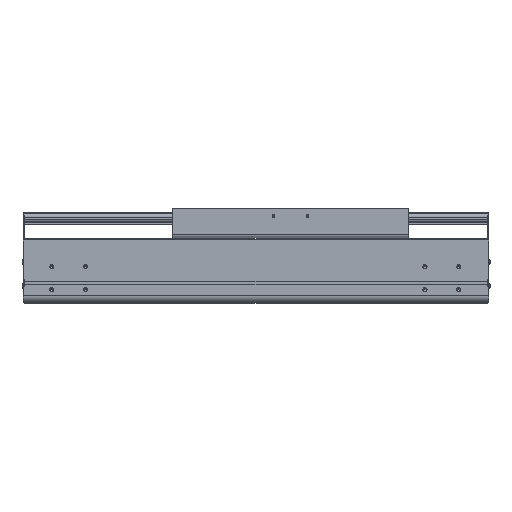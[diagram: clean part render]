
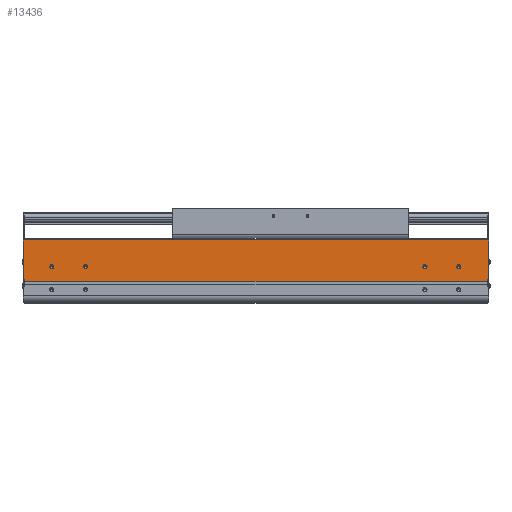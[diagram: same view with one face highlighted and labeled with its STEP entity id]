
A CAD part, top view. The second image highlights one B-rep face of the part: STEP entity #13436.
In plain terms, the highlighted planar face has unit normal (0, 0, 1).
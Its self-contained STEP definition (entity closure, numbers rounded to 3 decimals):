
#730=DIRECTION('',(1.,0.,0.));
#731=VECTOR('',#730,2.);
#732=CARTESIAN_POINT('',(-686.,34.65,107.));
#733=LINE('',#732,#731);
#734=CARTESIAN_POINT('',(-42.,54.,107.));
#735=DIRECTION('',(0.,0.,-1.));
#736=DIRECTION('',(1.,0.,0.));
#737=AXIS2_PLACEMENT_3D('',#734,#735,#736);
#739=CARTESIAN_POINT('',(-42.,54.,107.));
#740=DIRECTION('',(0.,0.,-1.));
#741=DIRECTION('',(-1.,0.,0.));
#742=AXIS2_PLACEMENT_3D('',#739,#740,#741);
#744=CARTESIAN_POINT('',(-92.,54.,107.));
#745=DIRECTION('',(0.,0.,-1.));
#746=DIRECTION('',(1.,0.,0.));
#747=AXIS2_PLACEMENT_3D('',#744,#745,#746);
#749=CARTESIAN_POINT('',(-92.,54.,107.));
#750=DIRECTION('',(0.,0.,-1.));
#751=DIRECTION('',(-1.,0.,0.));
#752=AXIS2_PLACEMENT_3D('',#749,#750,#751);
#754=CARTESIAN_POINT('',(-644.,54.,107.));
#755=DIRECTION('',(0.,0.,-1.));
#756=DIRECTION('',(1.,0.,0.));
#757=AXIS2_PLACEMENT_3D('',#754,#755,#756);
#759=CARTESIAN_POINT('',(-644.,54.,107.));
#760=DIRECTION('',(0.,0.,-1.));
#761=DIRECTION('',(-1.,0.,0.));
#762=AXIS2_PLACEMENT_3D('',#759,#760,#761);
#764=CARTESIAN_POINT('',(-594.,54.,107.));
#765=DIRECTION('',(0.,0.,-1.));
#766=DIRECTION('',(1.,0.,0.));
#767=AXIS2_PLACEMENT_3D('',#764,#765,#766);
#769=CARTESIAN_POINT('',(-594.,54.,107.));
#770=DIRECTION('',(0.,0.,-1.));
#771=DIRECTION('',(-1.,0.,0.));
#772=AXIS2_PLACEMENT_3D('',#769,#770,#771);
#774=DIRECTION('',(0.,-1.,0.));
#775=VECTOR('',#774,2.55);
#776=CARTESIAN_POINT('',(-684.,34.65,107.));
#777=LINE('',#776,#775);
#778=DIRECTION('',(0.,-1.,0.));
#779=VECTOR('',#778,58.85);
#780=CARTESIAN_POINT('',(-686.,93.5,107.));
#781=LINE('',#780,#779);
#782=DIRECTION('',(0.,1.,0.));
#783=VECTOR('',#782,58.85);
#784=CARTESIAN_POINT('',(2.,34.65,107.));
#785=LINE('',#784,#783);
#786=DIRECTION('',(0.,1.,0.));
#787=VECTOR('',#786,2.55);
#788=CARTESIAN_POINT('',(0.,32.1,107.));
#789=LINE('',#788,#787);
#894=DIRECTION('',(-1.,0.,0.));
#895=VECTOR('',#894,688.);
#896=CARTESIAN_POINT('',(2.,93.5,107.));
#897=LINE('',#896,#895);
#2084=DIRECTION('',(1.,0.,0.));
#2085=VECTOR('',#2084,2.);
#2086=CARTESIAN_POINT('',(0.,34.65,107.));
#2087=LINE('',#2086,#2085);
#9092=DIRECTION('',(1.,0.,0.));
#9093=VECTOR('',#9092,684.);
#9094=CARTESIAN_POINT('',(-684.,32.1,107.));
#9095=LINE('',#9094,#9093);
#9749=CARTESIAN_POINT('',(-686.,34.65,107.));
#9750=VERTEX_POINT('',#9749);
#9751=CARTESIAN_POINT('',(-686.,93.5,107.));
#9752=VERTEX_POINT('',#9751);
#9981=CARTESIAN_POINT('',(-684.,32.1,107.));
#9982=VERTEX_POINT('',#9981);
#10077=CARTESIAN_POINT('',(0.,32.1,107.));
#10078=VERTEX_POINT('',#10077);
#10349=CARTESIAN_POINT('',(-39.5,54.,107.));
#10350=CARTESIAN_POINT('',(-44.5,54.,107.));
#10351=VERTEX_POINT('',#10349);
#10352=VERTEX_POINT('',#10350);
#10353=CARTESIAN_POINT('',(-89.5,54.,107.));
#10354=CARTESIAN_POINT('',(-94.5,54.,107.));
#10355=VERTEX_POINT('',#10353);
#10356=VERTEX_POINT('',#10354);
#10357=CARTESIAN_POINT('',(-641.5,54.,107.));
#10358=CARTESIAN_POINT('',(-646.5,54.,107.));
#10359=VERTEX_POINT('',#10357);
#10360=VERTEX_POINT('',#10358);
#10361=CARTESIAN_POINT('',(-591.5,54.,107.));
#10362=CARTESIAN_POINT('',(-596.5,54.,107.));
#10363=VERTEX_POINT('',#10361);
#10364=VERTEX_POINT('',#10362);
#11282=CARTESIAN_POINT('',(2.,34.65,107.));
#11283=VERTEX_POINT('',#11282);
#11284=CARTESIAN_POINT('',(2.,93.5,107.));
#11285=VERTEX_POINT('',#11284);
#11506=CARTESIAN_POINT('',(0.,34.65,107.));
#11507=VERTEX_POINT('',#11506);
#11818=CARTESIAN_POINT('',(-684.,34.65,107.));
#11819=VERTEX_POINT('',#11818);
#13392=CARTESIAN_POINT('',(-342.,62.8,107.));
#13393=DIRECTION('',(0.,0.,1.));
#13394=DIRECTION('',(0.,-1.,0.));
#13395=AXIS2_PLACEMENT_3D('',#13392,#13393,#13394);
#13396=PLANE('',#13395);
#13397=ORIENTED_EDGE('',*,*,#12763,.F.);
#13398=ORIENTED_EDGE('',*,*,#13387,.F.);
#13399=ORIENTED_EDGE('',*,*,#12638,.F.);
#13401=ORIENTED_EDGE('',*,*,#13400,.F.);
#13403=ORIENTED_EDGE('',*,*,#13402,.F.);
#13405=ORIENTED_EDGE('',*,*,#13404,.F.);
#13407=ORIENTED_EDGE('',*,*,#13406,.F.);
#13409=ORIENTED_EDGE('',*,*,#13408,.F.);
#13410=EDGE_LOOP('',(#13397,#13398,#13399,#13401,#13403,#13405,#13407,#13409));
#13411=FACE_OUTER_BOUND('',#13410,.F.);
#13413=ORIENTED_EDGE('',*,*,#13412,.F.);
#13415=ORIENTED_EDGE('',*,*,#13414,.F.);
#13416=EDGE_LOOP('',(#13413,#13415));
#13417=FACE_BOUND('',#13416,.F.);
#13419=ORIENTED_EDGE('',*,*,#13418,.F.);
#13421=ORIENTED_EDGE('',*,*,#13420,.F.);
#13422=EDGE_LOOP('',(#13419,#13421));
#13423=FACE_BOUND('',#13422,.F.);
#13425=ORIENTED_EDGE('',*,*,#13424,.F.);
#13427=ORIENTED_EDGE('',*,*,#13426,.F.);
#13428=EDGE_LOOP('',(#13425,#13427));
#13429=FACE_BOUND('',#13428,.F.);
#13431=ORIENTED_EDGE('',*,*,#13430,.F.);
#13433=ORIENTED_EDGE('',*,*,#13432,.F.);
#13434=EDGE_LOOP('',(#13431,#13433));
#13435=FACE_BOUND('',#13434,.F.);
#13436=ADVANCED_FACE('',(#13411,#13417,#13423,#13429,#13435),#13396,.T.);
#738=CIRCLE('',#737,2.5);
#743=CIRCLE('',#742,2.5);
#748=CIRCLE('',#747,2.5);
#753=CIRCLE('',#752,2.5);
#758=CIRCLE('',#757,2.5);
#763=CIRCLE('',#762,2.5);
#768=CIRCLE('',#767,2.5);
#773=CIRCLE('',#772,2.5);
#12638=EDGE_CURVE('',#9752,#9750,#781,.T.);
#12763=EDGE_CURVE('',#11819,#9982,#777,.T.);
#13387=EDGE_CURVE('',#9750,#11819,#733,.T.);
#13400=EDGE_CURVE('',#11285,#9752,#897,.T.);
#13402=EDGE_CURVE('',#11283,#11285,#785,.T.);
#13404=EDGE_CURVE('',#11507,#11283,#2087,.T.);
#13406=EDGE_CURVE('',#10078,#11507,#789,.T.);
#13408=EDGE_CURVE('',#9982,#10078,#9095,.T.);
#13412=EDGE_CURVE('',#10355,#10356,#748,.T.);
#13414=EDGE_CURVE('',#10356,#10355,#753,.T.);
#13418=EDGE_CURVE('',#10359,#10360,#758,.T.);
#13420=EDGE_CURVE('',#10360,#10359,#763,.T.);
#13424=EDGE_CURVE('',#10363,#10364,#768,.T.);
#13426=EDGE_CURVE('',#10364,#10363,#773,.T.);
#13430=EDGE_CURVE('',#10351,#10352,#738,.T.);
#13432=EDGE_CURVE('',#10352,#10351,#743,.T.);
